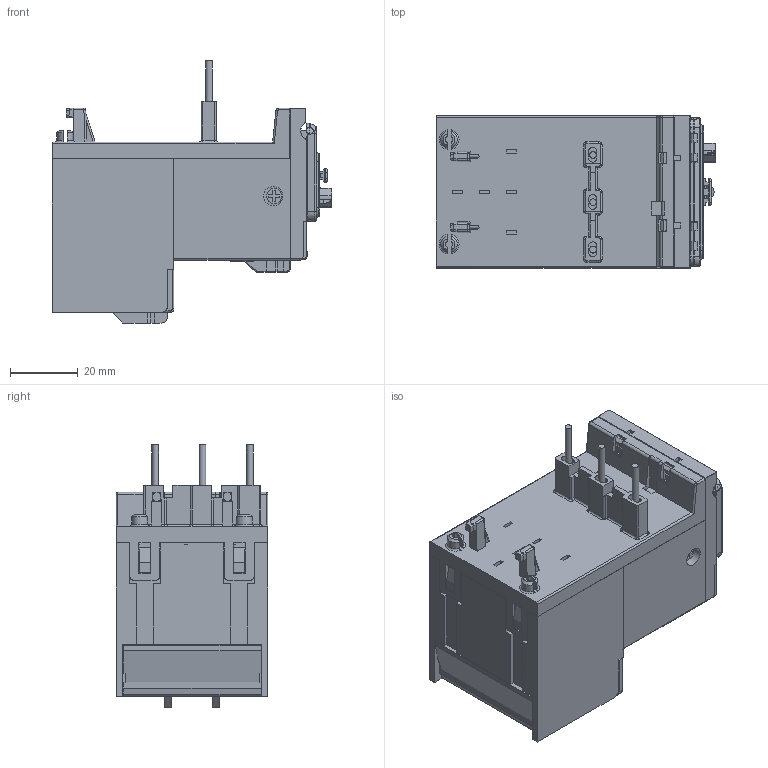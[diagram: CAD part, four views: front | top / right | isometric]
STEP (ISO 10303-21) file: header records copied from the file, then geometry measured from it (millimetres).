
FILE_DESCRIPTION(/* description */ (''),/* implementation_level */ '2;1');
FILE_NAME(/* name */ 'HGT18AF_stp.stp',/* time_stamp */ '2017-12-06T11:35:40+09:00',/* author */ (''),/* organization */ (''),/* preprocessor_version */ 'ST-DEVELOPER v15',/* originating_system */ 'SIEMENS PLM Software NX 9.0',/* authorisation */ '');
FILE_SCHEMA (('CONFIG_CONTROL_DESIGN'));
Products named in the file (1): HGT18AF_stp
Bounding box: 82.75 x 45 x 77.6 mm (x, y, z)
Volume: 138149.8 mm3; surface area: 56735.4 mm2
Topology: 43 solids, 61 shells, 5506 faces, 14980 edges, 9671 vertices
Faces by surface type: plane 3844, cylinder 1150, bspline 226, torus 115, cone 75, extrusion 51, sphere 45
Full cylindrical faces by diameter (mm): 1.8 x4, 2 x3, 2.5 x1, 3 x4, 3.5 x4, 5.7 x1, 6.2 x1, 6.5 x1, 6.7 x5, 6.8 x4, 7 x1, 8 x1, 12 x1
Entity records: 190009 total; most frequent: CARTESIAN_POINT 51763, ORIENTED_EDGE 29664, DIRECTION 27208, EDGE_CURVE 14832, VECTOR 11414, LINE 11363, VERTEX_POINT 9668, AXIS2_PLACEMENT_3D 7897
